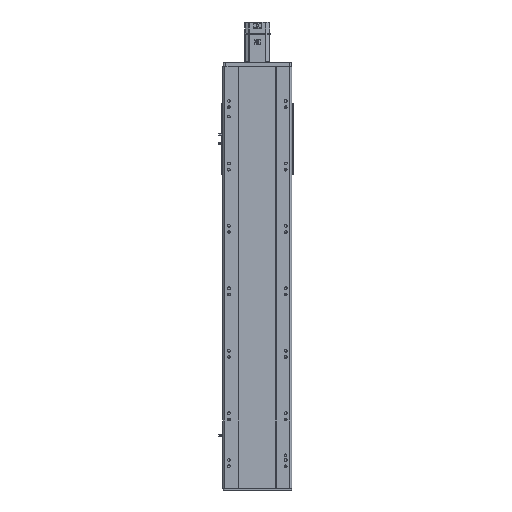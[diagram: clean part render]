
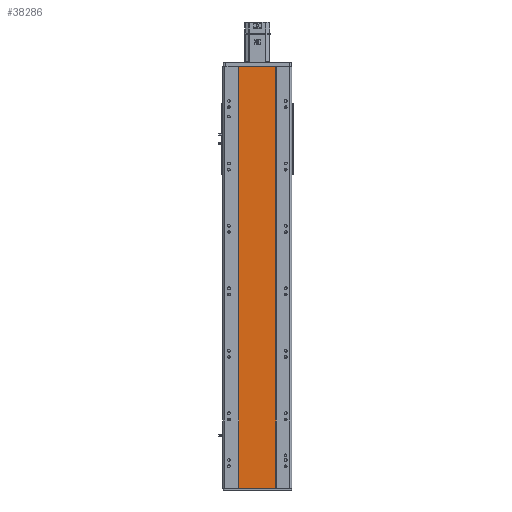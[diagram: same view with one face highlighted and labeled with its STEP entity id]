
A CAD part, front view. The second image highlights one B-rep face of the part: STEP entity #38286.
In plain terms, the highlighted planar face has unit normal (0, -1, 0).
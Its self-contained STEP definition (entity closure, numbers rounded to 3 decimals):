
#350 = VECTOR ( 'NONE', #24975, 1000. ) ;
#657 = CARTESIAN_POINT ( 'NONE',  ( 59., 1., 675.5 ) ) ;
#1018 = PLANE ( 'NONE',  #21144 ) ;
#2323 = LINE ( 'NONE', #20084, #23482 ) ;
#4639 = CARTESIAN_POINT ( 'NONE',  ( 59., 1., 675.5 ) ) ;
#5977 = CARTESIAN_POINT ( 'NONE',  ( -59., 1., 675.5 ) ) ;
#6181 = DIRECTION ( 'NONE',  ( 1., 0., 0. ) ) ;
#8775 = EDGE_CURVE ( 'NONE', #13266, #29875, #19456, .T. ) ;
#10652 = EDGE_CURVE ( 'NONE', #35258, #29875, #11751, .T. ) ;
#10961 = CARTESIAN_POINT ( 'NONE',  ( 59., 1., -675.5 ) ) ;
#11751 = LINE ( 'NONE', #26969, #36710 ) ;
#13266 = VERTEX_POINT ( 'NONE', #4639 ) ;
#13659 = FACE_OUTER_BOUND ( 'NONE', #24777, .T. ) ;
#14793 = CARTESIAN_POINT ( 'NONE',  ( -59., 1., -675.5 ) ) ;
#18432 = DIRECTION ( 'NONE',  ( 0., 0., -1. ) ) ;
#18926 = VERTEX_POINT ( 'NONE', #19865 ) ;
#19456 = LINE ( 'NONE', #657, #35882 ) ;
#19615 = ORIENTED_EDGE ( 'NONE', *, *, #8775, .F. ) ;
#19865 = CARTESIAN_POINT ( 'NONE',  ( -59., 1., 675.5 ) ) ;
#20084 = CARTESIAN_POINT ( 'NONE',  ( -59., 1., 675.5 ) ) ;
#21144 = AXIS2_PLACEMENT_3D ( 'NONE', #34017, #21794, #27750 ) ;
#21794 = DIRECTION ( 'NONE',  ( 0., 1., 0. ) ) ;
#23392 = LINE ( 'NONE', #5977, #350 ) ;
#23482 = VECTOR ( 'NONE', #26116, 1000. ) ;
#24249 = EDGE_CURVE ( 'NONE', #18926, #35258, #23392, .T. ) ;
#24777 = EDGE_LOOP ( 'NONE', ( #38028, #19615, #38784, #30108 ) ) ;
#24975 = DIRECTION ( 'NONE',  ( 0., 0., -1. ) ) ;
#26116 = DIRECTION ( 'NONE',  ( 1., 0., 0. ) ) ;
#26969 = CARTESIAN_POINT ( 'NONE',  ( -59., 1., -675.5 ) ) ;
#27750 = DIRECTION ( 'NONE',  ( -1., 0., 0. ) ) ;
#29875 = VERTEX_POINT ( 'NONE', #10961 ) ;
#30108 = ORIENTED_EDGE ( 'NONE', *, *, #24249, .T. ) ;
#34017 = CARTESIAN_POINT ( 'NONE',  ( -59., 1., 675.5 ) ) ;
#35258 = VERTEX_POINT ( 'NONE', #14793 ) ;
#35882 = VECTOR ( 'NONE', #18432, 1000. ) ;
#36710 = VECTOR ( 'NONE', #6181, 1000. ) ;
#38028 = ORIENTED_EDGE ( 'NONE', *, *, #10652, .T. ) ;
#38286 = ADVANCED_FACE ( 'NONE', ( #13659 ), #1018, .F. ) ;
#38528 = EDGE_CURVE ( 'NONE', #18926, #13266, #2323, .T. ) ;
#38784 = ORIENTED_EDGE ( 'NONE', *, *, #38528, .F. ) ;
